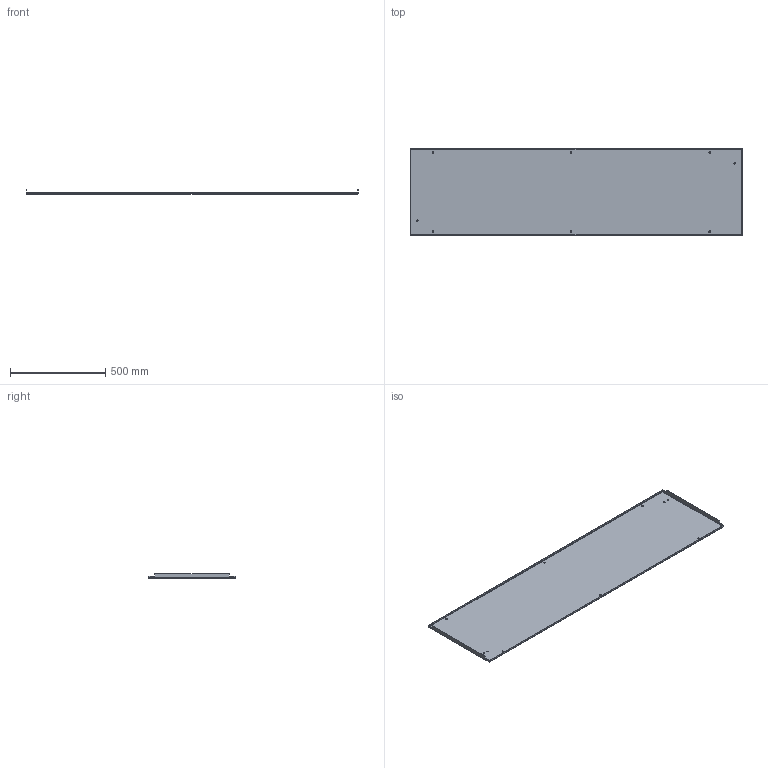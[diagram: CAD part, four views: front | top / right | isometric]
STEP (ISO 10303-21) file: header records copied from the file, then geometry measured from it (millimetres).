
FILE_DESCRIPTION (( 'STEP AP203' ), '1' );
FILE_NAME ('pbb185.STEP', '2011-09-16T16:35:54', ( 'Hoffman User' ), ( 'Hoffman Enclosures' ), 'SwSTEP 2.0', 'SolidWorks 2010', '' );
FILE_SCHEMA (( 'CONFIG_CONTROL_DESIGN' ));
Length unit declared in the file: inch
Products named in the file (2): pbb185; 87549428
Assembly tree (1 placements, depth 2):
  pbb185
    87549428
Bounding box: 1739.04 x 453.42 x 23.55 mm (x, y, z)
Volume: 1167642.1 mm3; surface area: 1678351 mm2
Topology: 1 solids, 1 shells, 132 faces, 308 edges, 184 vertices
Faces by surface type: plane 100, cylinder 24, bspline 8
Entity records: 4328 total; most frequent: CARTESIAN_POINT 1148, ORIENTED_EDGE 616, DIRECTION 580, EDGE_CURVE 308, LINE 260, VECTOR 260, VERTEX_POINT 184, AXIS2_PLACEMENT_3D 160
